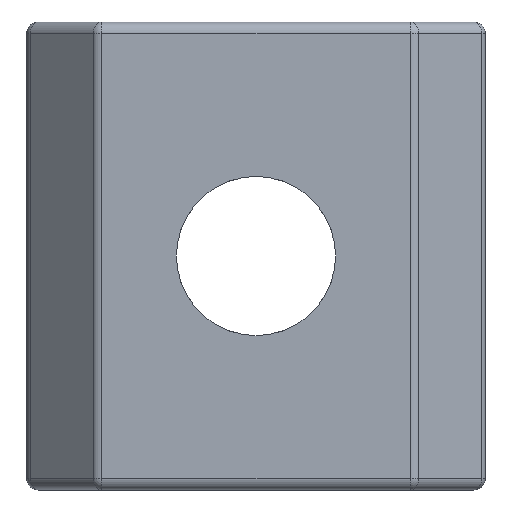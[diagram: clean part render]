
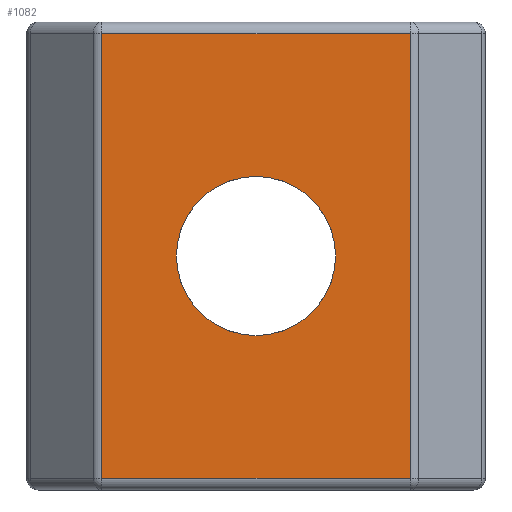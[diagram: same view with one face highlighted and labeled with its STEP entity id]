
A CAD part, front view. The second image highlights one B-rep face of the part: STEP entity #1082.
In plain terms, the highlighted planar face has unit normal (0, -1, 0).
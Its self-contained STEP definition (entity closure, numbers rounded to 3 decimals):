
#40 = EDGE_CURVE ( 'NONE', #555, #390, #1657, .T. ) ;
#41 = VERTEX_POINT ( 'NONE', #1765 ) ;
#82 = EDGE_CURVE ( 'NONE', #235, #555, #1112, .T. ) ;
#139 = CARTESIAN_POINT ( 'NONE',  ( -6.294, -2.995, -9.75 ) ) ;
#157 = VERTEX_POINT ( 'NONE', #139 ) ;
#232 = DIRECTION ( 'NONE',  ( 0., 0., -1. ) ) ;
#235 = VERTEX_POINT ( 'NONE', #2038 ) ;
#255 = VECTOR ( 'NONE', #1980, 1000. ) ;
#289 = ORIENTED_EDGE ( 'NONE', *, *, #697, .T. ) ;
#294 = PLANE ( 'NONE',  #1813 ) ;
#318 = CARTESIAN_POINT ( 'NONE',  ( -2.997, -2.995, -5. ) ) ;
#329 = EDGE_CURVE ( 'NONE', #41, #523, #1899, .T. ) ;
#341 = CARTESIAN_POINT ( 'NONE',  ( 0.299, -2.995, -10. ) ) ;
#390 = VERTEX_POINT ( 'NONE', #932 ) ;
#455 = ORIENTED_EDGE ( 'NONE', *, *, #40, .T. ) ;
#510 = FACE_BOUND ( 'NONE', #1810, .T. ) ;
#523 = VERTEX_POINT ( 'NONE', #1733 ) ;
#537 = EDGE_CURVE ( 'NONE', #523, #41, #1695, .T. ) ;
#555 = VERTEX_POINT ( 'NONE', #2102 ) ;
#558 = DIRECTION ( 'NONE',  ( 0., 1., 0. ) ) ;
#663 = CARTESIAN_POINT ( 'NONE',  ( -6.397, -2.995, -9.75 ) ) ;
#697 = EDGE_CURVE ( 'NONE', #390, #157, #1157, .T. ) ;
#737 = ORIENTED_EDGE ( 'NONE', *, *, #82, .T. ) ;
#773 = DIRECTION ( 'NONE',  ( 0., -1., 0. ) ) ;
#802 = AXIS2_PLACEMENT_3D ( 'NONE', #318, #2123, #1114 ) ;
#814 = DIRECTION ( 'NONE',  ( 1., 0., 0. ) ) ;
#886 = FACE_OUTER_BOUND ( 'NONE', #2150, .T. ) ;
#932 = CARTESIAN_POINT ( 'NONE',  ( -6.294, -2.995, -0.25 ) ) ;
#960 = DIRECTION ( 'NONE',  ( -1., 0., 0. ) ) ;
#995 = ORIENTED_EDGE ( 'NONE', *, *, #537, .T. ) ;
#1031 = VECTOR ( 'NONE', #960, 1000. ) ;
#1052 = VECTOR ( 'NONE', #814, 1000. ) ;
#1082 = ADVANCED_FACE ( 'NONE', ( #886, #510 ), #294, .T. ) ;
#1088 = CARTESIAN_POINT ( 'NONE',  ( -6.397, -2.995, -10. ) ) ;
#1112 = LINE ( 'NONE', #341, #255 ) ;
#1114 = DIRECTION ( 'NONE',  ( 0., 0., -1. ) ) ;
#1157 = LINE ( 'NONE', #1672, #1955 ) ;
#1169 = EDGE_CURVE ( 'NONE', #157, #235, #1717, .T. ) ;
#1215 = CARTESIAN_POINT ( 'NONE',  ( -2.997, -2.995, -5. ) ) ;
#1299 = AXIS2_PLACEMENT_3D ( 'NONE', #1215, #558, #232 ) ;
#1373 = ORIENTED_EDGE ( 'NONE', *, *, #329, .T. ) ;
#1448 = DIRECTION ( 'NONE',  ( 0., 0., -1. ) ) ;
#1657 = LINE ( 'NONE', #1947, #1031 ) ;
#1672 = CARTESIAN_POINT ( 'NONE',  ( -6.294, -2.995, -10. ) ) ;
#1695 = CIRCLE ( 'NONE', #802, 1.7 ) ;
#1717 = LINE ( 'NONE', #663, #1052 ) ;
#1733 = CARTESIAN_POINT ( 'NONE',  ( -4.697, -2.995, -5. ) ) ;
#1765 = CARTESIAN_POINT ( 'NONE',  ( -1.297, -2.995, -5. ) ) ;
#1810 = EDGE_LOOP ( 'NONE', ( #995, #1373 ) ) ;
#1813 = AXIS2_PLACEMENT_3D ( 'NONE', #1088, #773, #1448 ) ;
#1899 = CIRCLE ( 'NONE', #1299, 1.7 ) ;
#1947 = CARTESIAN_POINT ( 'NONE',  ( -6.397, -2.995, -0.25 ) ) ;
#1955 = VECTOR ( 'NONE', #1986, 1000. ) ;
#1980 = DIRECTION ( 'NONE',  ( 0., 0., 1. ) ) ;
#1986 = DIRECTION ( 'NONE',  ( 0., 0., -1. ) ) ;
#2038 = CARTESIAN_POINT ( 'NONE',  ( 0.299, -2.995, -9.75 ) ) ;
#2102 = CARTESIAN_POINT ( 'NONE',  ( 0.299, -2.995, -0.25 ) ) ;
#2123 = DIRECTION ( 'NONE',  ( 0., 1., 0. ) ) ;
#2145 = ORIENTED_EDGE ( 'NONE', *, *, #1169, .T. ) ;
#2150 = EDGE_LOOP ( 'NONE', ( #455, #289, #2145, #737 ) ) ;
